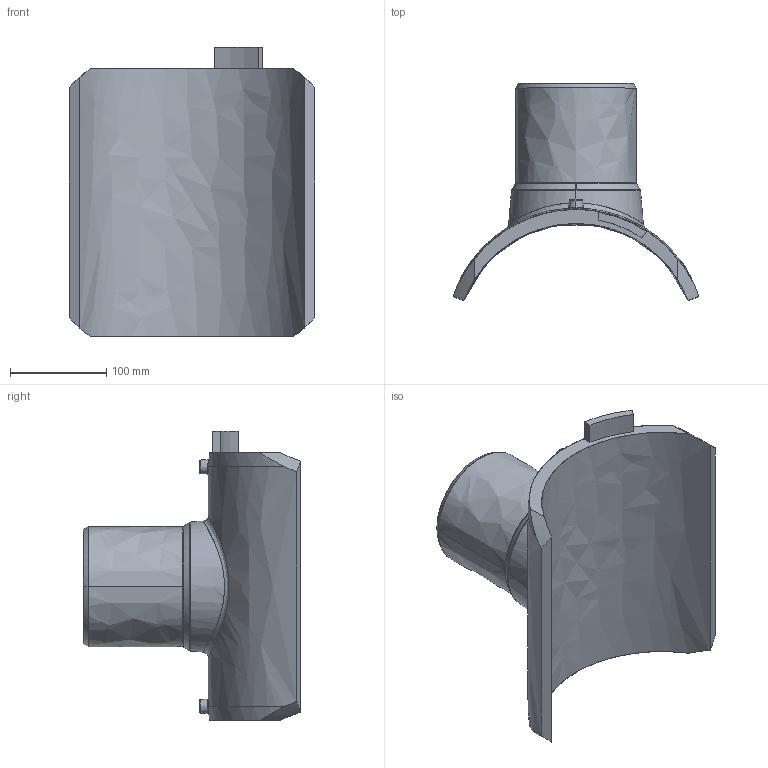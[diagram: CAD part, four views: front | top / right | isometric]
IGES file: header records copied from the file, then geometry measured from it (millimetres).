
Start section:  PTC IGES file: sa-uni_d250_125_01.igs
Global section: file name: sa-uni_d250_125_01.igs; native system: Pro/ENGINEER by Parametric Technology Corporation; preprocessor: 2011490; author: MikulicP; organization: Unknown; date: 20170202.135437; units: millimetre
Bounding box: 255.71 x 225.99 x 301 mm (x, y, z)
Surface area: 298158.1 mm2 (no closed solid volume)
Topology: 0 solids, 0 shells, 202 faces, 1000 edges, 1000 vertices
Faces by surface type: bspline 202
